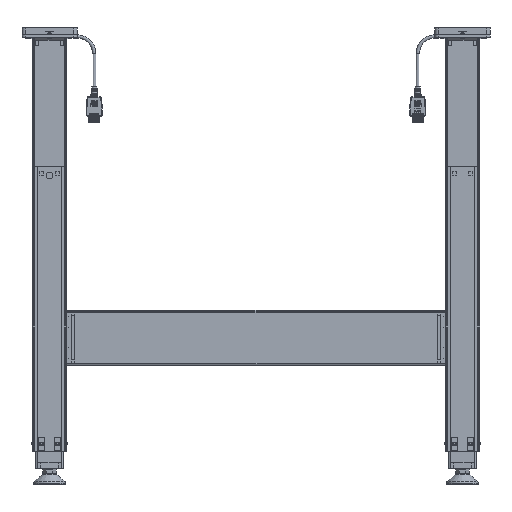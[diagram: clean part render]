
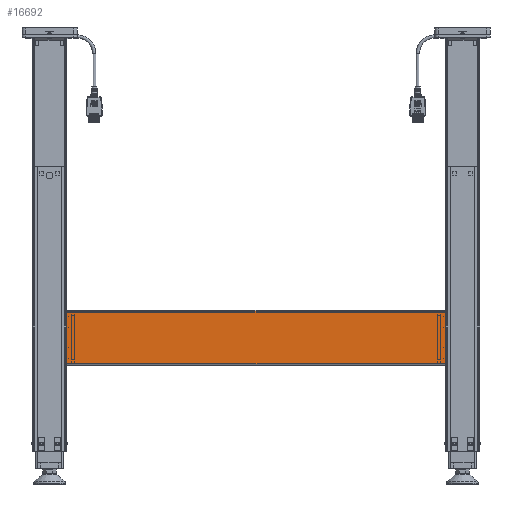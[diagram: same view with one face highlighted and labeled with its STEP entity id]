
A CAD part, front view. The second image highlights one B-rep face of the part: STEP entity #16692.
In plain terms, the highlighted planar face has unit normal (0, -1, 0) as drawn and (0, 0, 1) by its records, which use the part's own axes.
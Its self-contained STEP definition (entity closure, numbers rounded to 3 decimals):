
#5340=ORIENTED_EDGE('',*,*,#8005,.F.);
#5341=ORIENTED_EDGE('',*,*,#8004,.F.);
#5342=ORIENTED_EDGE('',*,*,#8006,.T.);
#5343=ORIENTED_EDGE('',*,*,#8007,.T.);
#8004=EDGE_CURVE('',#9645,#9644,#11181,.T.);
#8005=EDGE_CURVE('',#9644,#9646,#11182,.T.);
#8006=EDGE_CURVE('',#9645,#9647,#11183,.T.);
#8007=EDGE_CURVE('',#9647,#9646,#11184,.T.);
#9644=VERTEX_POINT('',#34502);
#9645=VERTEX_POINT('',#34504);
#9646=VERTEX_POINT('',#34508);
#9647=VERTEX_POINT('',#34510);
#11181=LINE('',#34505,#12577);
#11182=LINE('',#34507,#12578);
#11183=LINE('',#34509,#12579);
#11184=LINE('',#34511,#12580);
#12577=VECTOR('',#27653,1000.);
#12578=VECTOR('',#27656,1000.);
#12579=VECTOR('',#27657,1000.);
#12580=VECTOR('',#27658,1000.);
#13632=EDGE_LOOP('',(#5340,#5341,#5342,#5343));
#14980=FACE_BOUND('',#13632,.T.);
#15878=PLANE('',#23445);
#16692=ADVANCED_FACE('',(#14980),#15878,.T.);
#23445=AXIS2_PLACEMENT_3D('',#34506,#27654,#27655);
#27653=DIRECTION('',(0.,-1.,0.));
#27654=DIRECTION('',(0.,0.,1.));
#27655=DIRECTION('',(1.,0.,0.));
#27656=DIRECTION('',(-1.,0.,0.));
#27657=DIRECTION('',(-1.,0.,0.));
#27658=DIRECTION('',(0.,-1.,0.));
#34502=CARTESIAN_POINT('',(38.,0.,25.));
#34504=CARTESIAN_POINT('',(38.,550.,25.));
#34505=CARTESIAN_POINT('',(38.,550.,25.));
#34506=CARTESIAN_POINT('',(38.,550.,25.));
#34507=CARTESIAN_POINT('',(38.,0.,25.));
#34508=CARTESIAN_POINT('',(-38.,0.,25.));
#34509=CARTESIAN_POINT('',(38.,550.,25.));
#34510=CARTESIAN_POINT('',(-38.,550.,25.));
#34511=CARTESIAN_POINT('',(-38.,550.,25.));
